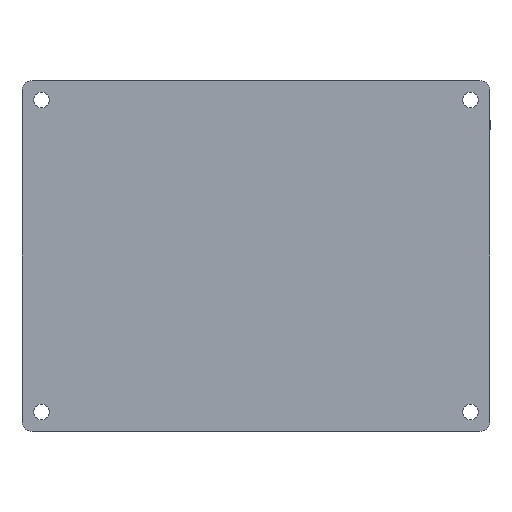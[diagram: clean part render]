
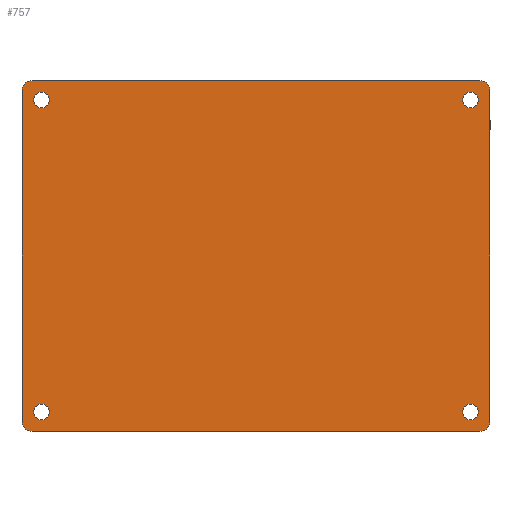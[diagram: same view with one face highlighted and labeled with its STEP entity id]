
A CAD part, front view. The second image highlights one B-rep face of the part: STEP entity #757.
In plain terms, the highlighted planar face has unit normal (0, -1, 0).
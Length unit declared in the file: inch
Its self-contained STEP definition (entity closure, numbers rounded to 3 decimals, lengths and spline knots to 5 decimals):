
#12 = CARTESIAN_POINT ( 'NONE',  ( -3.54331, 0., -2.5 ) ) ;
#56 = AXIS2_PLACEMENT_3D ( 'NONE', #4686, #540, #3405 ) ;
#185 = FACE_BOUND ( 'NONE', #5146, .T. ) ;
#197 = CARTESIAN_POINT ( 'NONE',  ( 3.24803, 0., 2.3622 ) ) ;
#275 = ORIENTED_EDGE ( 'NONE', *, *, #5172, .F. ) ;
#303 = CIRCLE ( 'NONE', #4245, 0.11811 ) ;
#337 = CIRCLE ( 'NONE', #2957, 0.11811 ) ;
#403 = ORIENTED_EDGE ( 'NONE', *, *, #4512, .T. ) ;
#476 = CARTESIAN_POINT ( 'NONE',  ( 3.24803, 0., 2.24409 ) ) ;
#540 = DIRECTION ( 'NONE',  ( 0., 1., 0. ) ) ;
#595 = ORIENTED_EDGE ( 'NONE', *, *, #1845, .T. ) ;
#660 = CIRCLE ( 'NONE', #56, 0.11811 ) ;
#666 = CARTESIAN_POINT ( 'NONE',  ( 3.38583, 0., 2.65748 ) ) ;
#690 = CARTESIAN_POINT ( 'NONE',  ( 0., 0., 0. ) ) ;
#701 = EDGE_CURVE ( 'NONE', #3753, #1611, #1290, .T. ) ;
#711 = ORIENTED_EDGE ( 'NONE', *, *, #736, .T. ) ;
#729 = CIRCLE ( 'NONE', #1180, 0.15748 ) ;
#736 = EDGE_CURVE ( 'NONE', #3922, #4363, #1945, .T. ) ;
#738 = EDGE_CURVE ( 'NONE', #1035, #3783, #4719, .T. ) ;
#757 = ADVANCED_FACE ( 'NONE', ( #185, #3621, #2008, #4974, #3049 ), #2002, .T. ) ;
#851 = DIRECTION ( 'NONE',  ( 0., 0., -1. ) ) ;
#894 = VERTEX_POINT ( 'NONE', #476 ) ;
#917 = VERTEX_POINT ( 'NONE', #4714 ) ;
#984 = AXIS2_PLACEMENT_3D ( 'NONE', #3384, #4242, #3439 ) ;
#1035 = VERTEX_POINT ( 'NONE', #3096 ) ;
#1057 = DIRECTION ( 'NONE',  ( 0., 0., -1. ) ) ;
#1060 = VERTEX_POINT ( 'NONE', #3564 ) ;
#1110 = CARTESIAN_POINT ( 'NONE',  ( -3.54331, 0., 2.65748 ) ) ;
#1165 = DIRECTION ( 'NONE',  ( 0., 0., -1. ) ) ;
#1169 = AXIS2_PLACEMENT_3D ( 'NONE', #3495, #4744, #1057 ) ;
#1180 = AXIS2_PLACEMENT_3D ( 'NONE', #1804, #1406, #4693 ) ;
#1243 = CARTESIAN_POINT ( 'NONE',  ( -3.24803, 0., 2.48031 ) ) ;
#1290 = CIRCLE ( 'NONE', #1333, 0.15748 ) ;
#1309 = CIRCLE ( 'NONE', #1730, 0.11811 ) ;
#1333 = AXIS2_PLACEMENT_3D ( 'NONE', #2811, #3214, #3997 ) ;
#1406 = DIRECTION ( 'NONE',  ( 0., -1., 0. ) ) ;
#1470 = EDGE_CURVE ( 'NONE', #2904, #917, #2064, .T. ) ;
#1594 = DIRECTION ( 'NONE',  ( 0., 0., 1. ) ) ;
#1597 = VECTOR ( 'NONE', #2909, 39.37008 ) ;
#1611 = VERTEX_POINT ( 'NONE', #3908 ) ;
#1660 = ORIENTED_EDGE ( 'NONE', *, *, #1780, .F. ) ;
#1730 = AXIS2_PLACEMENT_3D ( 'NONE', #197, #3103, #2705 ) ;
#1760 = CARTESIAN_POINT ( 'NONE',  ( -3.54331, 0., 2.5 ) ) ;
#1763 = DIRECTION ( 'NONE',  ( 0., 0., -1. ) ) ;
#1780 = EDGE_CURVE ( 'NONE', #3753, #2250, #4317, .T. ) ;
#1788 = DIRECTION ( 'NONE',  ( 0., 0., 1. ) ) ;
#1804 = CARTESIAN_POINT ( 'NONE',  ( -3.38583, 0., 2.5 ) ) ;
#1845 = EDGE_CURVE ( 'NONE', #1060, #4068, #303, .T. ) ;
#1945 = CIRCLE ( 'NONE', #2170, 0.11811 ) ;
#2002 = PLANE ( 'NONE',  #3587 ) ;
#2008 = FACE_BOUND ( 'NONE', #3148, .T. ) ;
#2029 = LINE ( 'NONE', #3736, #4797 ) ;
#2064 = CIRCLE ( 'NONE', #3251, 0.11811 ) ;
#2065 = CARTESIAN_POINT ( 'NONE',  ( -3.24803, 0., -2.48031 ) ) ;
#2067 = ORIENTED_EDGE ( 'NONE', *, *, #3095, .T. ) ;
#2170 = AXIS2_PLACEMENT_3D ( 'NONE', #2386, #5304, #4435 ) ;
#2238 = DIRECTION ( 'NONE',  ( 0., 1., 0. ) ) ;
#2250 = VERTEX_POINT ( 'NONE', #4434 ) ;
#2254 = ORIENTED_EDGE ( 'NONE', *, *, #4366, .F. ) ;
#2322 = CARTESIAN_POINT ( 'NONE',  ( 3.24803, 0., -2.3622 ) ) ;
#2352 = VERTEX_POINT ( 'NONE', #2999 ) ;
#2380 = DIRECTION ( 'NONE',  ( 0., 1., 0. ) ) ;
#2386 = CARTESIAN_POINT ( 'NONE',  ( -3.24803, 0., -2.3622 ) ) ;
#2432 = DIRECTION ( 'NONE',  ( 0., 0., 1. ) ) ;
#2461 = EDGE_LOOP ( 'NONE', ( #5091, #5347, #275, #403, #1660, #2493, #2254, #2067 ) ) ;
#2493 = ORIENTED_EDGE ( 'NONE', *, *, #701, .T. ) ;
#2534 = VERTEX_POINT ( 'NONE', #5155 ) ;
#2618 = DIRECTION ( 'NONE',  ( 0., 0., 1. ) ) ;
#2656 = CARTESIAN_POINT ( 'NONE',  ( -3.38583, 0., -2.5 ) ) ;
#2675 = DIRECTION ( 'NONE',  ( 0., -1., 0. ) ) ;
#2683 = LINE ( 'NONE', #5010, #4422 ) ;
#2705 = DIRECTION ( 'NONE',  ( 0., 0., 1. ) ) ;
#2756 = EDGE_CURVE ( 'NONE', #894, #2534, #3092, .T. ) ;
#2811 = CARTESIAN_POINT ( 'NONE',  ( 3.38583, 0., -2.5 ) ) ;
#2904 = VERTEX_POINT ( 'NONE', #1243 ) ;
#2909 = DIRECTION ( 'NONE',  ( -1., 0., 0. ) ) ;
#2934 = ORIENTED_EDGE ( 'NONE', *, *, #5334, .T. ) ;
#2957 = AXIS2_PLACEMENT_3D ( 'NONE', #4666, #2238, #2618 ) ;
#2999 = CARTESIAN_POINT ( 'NONE',  ( 3.54331, 0., 2.5 ) ) ;
#3027 = EDGE_CURVE ( 'NONE', #4068, #1060, #3844, .T. ) ;
#3049 = FACE_OUTER_BOUND ( 'NONE', #2461, .T. ) ;
#3092 = CIRCLE ( 'NONE', #4594, 0.11811 ) ;
#3095 = EDGE_CURVE ( 'NONE', #2352, #3783, #3717, .T. ) ;
#3096 = CARTESIAN_POINT ( 'NONE',  ( -3.38583, 0., 2.65748 ) ) ;
#3103 = DIRECTION ( 'NONE',  ( 0., 1., 0. ) ) ;
#3148 = EDGE_LOOP ( 'NONE', ( #595, #5305 ) ) ;
#3214 = DIRECTION ( 'NONE',  ( 0., -1., 0. ) ) ;
#3251 = AXIS2_PLACEMENT_3D ( 'NONE', #3889, #3339, #1788 ) ;
#3326 = CIRCLE ( 'NONE', #5362, 0.15748 ) ;
#3339 = DIRECTION ( 'NONE',  ( 0., 1., 0. ) ) ;
#3345 = CARTESIAN_POINT ( 'NONE',  ( 3.24803, 0., -2.48031 ) ) ;
#3384 = CARTESIAN_POINT ( 'NONE',  ( 3.24803, 0., -2.3622 ) ) ;
#3405 = DIRECTION ( 'NONE',  ( 0., 0., 1. ) ) ;
#3439 = DIRECTION ( 'NONE',  ( 0., 0., 1. ) ) ;
#3446 = EDGE_LOOP ( 'NONE', ( #4348, #711 ) ) ;
#3495 = CARTESIAN_POINT ( 'NONE',  ( 3.38583, 0., 2.5 ) ) ;
#3564 = CARTESIAN_POINT ( 'NONE',  ( 3.24803, 0., -2.24409 ) ) ;
#3587 = AXIS2_PLACEMENT_3D ( 'NONE', #690, #3606, #1165 ) ;
#3601 = CARTESIAN_POINT ( 'NONE',  ( 3.38583, 0., -2.65748 ) ) ;
#3606 = DIRECTION ( 'NONE',  ( 0., -1., 0. ) ) ;
#3621 = FACE_BOUND ( 'NONE', #5119, .T. ) ;
#3717 = CIRCLE ( 'NONE', #1169, 0.15748 ) ;
#3736 = CARTESIAN_POINT ( 'NONE',  ( -3.54331, 0., 2.65748 ) ) ;
#3753 = VERTEX_POINT ( 'NONE', #3601 ) ;
#3783 = VERTEX_POINT ( 'NONE', #666 ) ;
#3844 = CIRCLE ( 'NONE', #984, 0.11811 ) ;
#3889 = CARTESIAN_POINT ( 'NONE',  ( -3.24803, 0., 2.3622 ) ) ;
#3908 = CARTESIAN_POINT ( 'NONE',  ( 3.54331, 0., -2.5 ) ) ;
#3922 = VERTEX_POINT ( 'NONE', #2065 ) ;
#3940 = ORIENTED_EDGE ( 'NONE', *, *, #1470, .T. ) ;
#3997 = DIRECTION ( 'NONE',  ( 0., 0., -1. ) ) ;
#4007 = VERTEX_POINT ( 'NONE', #12 ) ;
#4068 = VERTEX_POINT ( 'NONE', #3345 ) ;
#4116 = CARTESIAN_POINT ( 'NONE',  ( -3.54331, 0., -2.65748 ) ) ;
#4151 = DIRECTION ( 'NONE',  ( 0., 0., 1. ) ) ;
#4242 = DIRECTION ( 'NONE',  ( 0., 1., 0. ) ) ;
#4245 = AXIS2_PLACEMENT_3D ( 'NONE', #2322, #4959, #1594 ) ;
#4267 = VECTOR ( 'NONE', #4473, 39.37008 ) ;
#4317 = LINE ( 'NONE', #4116, #1597 ) ;
#4320 = ORIENTED_EDGE ( 'NONE', *, *, #2756, .T. ) ;
#4348 = ORIENTED_EDGE ( 'NONE', *, *, #5180, .T. ) ;
#4363 = VERTEX_POINT ( 'NONE', #4636 ) ;
#4366 = EDGE_CURVE ( 'NONE', #2352, #1611, #2683, .T. ) ;
#4422 = VECTOR ( 'NONE', #851, 39.37008 ) ;
#4434 = CARTESIAN_POINT ( 'NONE',  ( -3.38583, 0., -2.65748 ) ) ;
#4435 = DIRECTION ( 'NONE',  ( 0., 0., 1. ) ) ;
#4473 = DIRECTION ( 'NONE',  ( 1., 0., 0. ) ) ;
#4512 = EDGE_CURVE ( 'NONE', #4007, #2250, #3326, .T. ) ;
#4519 = EDGE_CURVE ( 'NONE', #1035, #5260, #729, .T. ) ;
#4594 = AXIS2_PLACEMENT_3D ( 'NONE', #4877, #2380, #2432 ) ;
#4636 = CARTESIAN_POINT ( 'NONE',  ( -3.24803, 0., -2.24409 ) ) ;
#4666 = CARTESIAN_POINT ( 'NONE',  ( -3.24803, 0., -2.3622 ) ) ;
#4686 = CARTESIAN_POINT ( 'NONE',  ( -3.24803, 0., 2.3622 ) ) ;
#4693 = DIRECTION ( 'NONE',  ( 0., 0., -1. ) ) ;
#4714 = CARTESIAN_POINT ( 'NONE',  ( -3.24803, 0., 2.24409 ) ) ;
#4719 = LINE ( 'NONE', #1110, #4267 ) ;
#4744 = DIRECTION ( 'NONE',  ( 0., -1., 0. ) ) ;
#4797 = VECTOR ( 'NONE', #4151, 39.37008 ) ;
#4877 = CARTESIAN_POINT ( 'NONE',  ( 3.24803, 0., 2.3622 ) ) ;
#4959 = DIRECTION ( 'NONE',  ( 0., 1., 0. ) ) ;
#4974 = FACE_BOUND ( 'NONE', #3446, .T. ) ;
#5010 = CARTESIAN_POINT ( 'NONE',  ( 3.54331, 0., 2.65748 ) ) ;
#5091 = ORIENTED_EDGE ( 'NONE', *, *, #738, .F. ) ;
#5119 = EDGE_LOOP ( 'NONE', ( #2934, #4320 ) ) ;
#5146 = EDGE_LOOP ( 'NONE', ( #3940, #5373 ) ) ;
#5155 = CARTESIAN_POINT ( 'NONE',  ( 3.24803, 0., 2.48031 ) ) ;
#5172 = EDGE_CURVE ( 'NONE', #4007, #5260, #2029, .T. ) ;
#5180 = EDGE_CURVE ( 'NONE', #4363, #3922, #337, .T. ) ;
#5260 = VERTEX_POINT ( 'NONE', #1760 ) ;
#5284 = EDGE_CURVE ( 'NONE', #917, #2904, #660, .T. ) ;
#5304 = DIRECTION ( 'NONE',  ( 0., 1., 0. ) ) ;
#5305 = ORIENTED_EDGE ( 'NONE', *, *, #3027, .T. ) ;
#5334 = EDGE_CURVE ( 'NONE', #2534, #894, #1309, .T. ) ;
#5347 = ORIENTED_EDGE ( 'NONE', *, *, #4519, .T. ) ;
#5362 = AXIS2_PLACEMENT_3D ( 'NONE', #2656, #2675, #1763 ) ;
#5373 = ORIENTED_EDGE ( 'NONE', *, *, #5284, .T. ) ;
